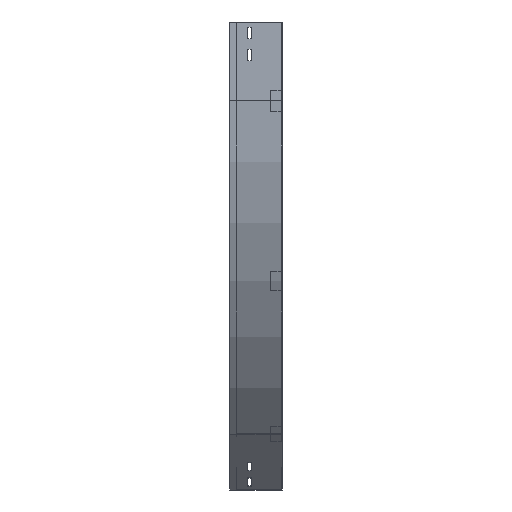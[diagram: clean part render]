
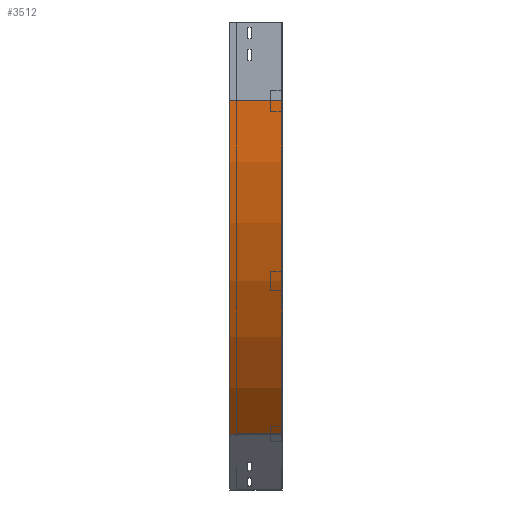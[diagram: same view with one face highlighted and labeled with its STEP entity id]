
A CAD part, left-side view. The second image highlights one B-rep face of the part: STEP entity #3512.
In plain terms, the highlighted cylindrical face has radius 900 mm (diameter 1800 mm), a partial arc.
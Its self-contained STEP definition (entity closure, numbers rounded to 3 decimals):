
#122 = EDGE_CURVE ( 'NONE', #3644, #3209, #1379, .T. ) ;
#161 = ORIENTED_EDGE ( 'NONE', *, *, #1625, .T. ) ;
#336 = EDGE_LOOP ( 'NONE', ( #1716, #3767, #161, #876 ) ) ;
#473 = DIRECTION ( 'NONE',  ( 0., -1., 0. ) ) ;
#520 = CIRCLE ( 'NONE', #579, 900. ) ;
#579 = AXIS2_PLACEMENT_3D ( 'NONE', #595, #1770, #2968 ) ;
#595 = CARTESIAN_POINT ( 'NONE',  ( 900., 100., -150. ) ) ;
#608 = CARTESIAN_POINT ( 'NONE',  ( 900., 0., -150. ) ) ;
#753 = CARTESIAN_POINT ( 'NONE',  ( 263.604, 0., -786.396 ) ) ;
#876 = ORIENTED_EDGE ( 'NONE', *, *, #1317, .T. ) ;
#893 = FACE_OUTER_BOUND ( 'NONE', #336, .T. ) ;
#1021 = CARTESIAN_POINT ( 'NONE',  ( 900., 0., -150. ) ) ;
#1317 = EDGE_CURVE ( 'NONE', #2394, #2404, #2796, .T. ) ;
#1342 = VECTOR ( 'NONE', #3450, 1000. ) ;
#1377 = CARTESIAN_POINT ( 'NONE',  ( 263.604, 100., -786.396 ) ) ;
#1379 = LINE ( 'NONE', #2551, #1342 ) ;
#1492 = DIRECTION ( 'NONE',  ( 0., -1., 0. ) ) ;
#1497 = CIRCLE ( 'NONE', #2004, 900. ) ;
#1552 = AXIS2_PLACEMENT_3D ( 'NONE', #608, #1492, #2690 ) ;
#1625 = EDGE_CURVE ( 'NONE', #3644, #2394, #520, .T. ) ;
#1656 = CARTESIAN_POINT ( 'NONE',  ( 0., 0., -150. ) ) ;
#1687 = DIRECTION ( 'NONE',  ( 0., -1., 0. ) ) ;
#1716 = ORIENTED_EDGE ( 'NONE', *, *, #1985, .F. ) ;
#1770 = DIRECTION ( 'NONE',  ( 0., -1., 0. ) ) ;
#1985 = EDGE_CURVE ( 'NONE', #3209, #2404, #1497, .T. ) ;
#2004 = AXIS2_PLACEMENT_3D ( 'NONE', #1021, #473, #3776 ) ;
#2250 = VECTOR ( 'NONE', #1687, 1000. ) ;
#2394 = VERTEX_POINT ( 'NONE', #1377 ) ;
#2404 = VERTEX_POINT ( 'NONE', #3095 ) ;
#2551 = CARTESIAN_POINT ( 'NONE',  ( 0., 0., -150. ) ) ;
#2690 = DIRECTION ( 'NONE',  ( 0., 0., -1. ) ) ;
#2796 = LINE ( 'NONE', #753, #2250 ) ;
#2968 = DIRECTION ( 'NONE',  ( -1., 0., 0. ) ) ;
#3095 = CARTESIAN_POINT ( 'NONE',  ( 263.604, 0., -786.396 ) ) ;
#3209 = VERTEX_POINT ( 'NONE', #1656 ) ;
#3450 = DIRECTION ( 'NONE',  ( 0., -1., 0. ) ) ;
#3512 = ADVANCED_FACE ( 'NONE', ( #893 ), #3597, .T. ) ;
#3597 = CYLINDRICAL_SURFACE ( 'NONE', #1552, 900. ) ;
#3644 = VERTEX_POINT ( 'NONE', #3741 ) ;
#3741 = CARTESIAN_POINT ( 'NONE',  ( 0., 100., -150. ) ) ;
#3767 = ORIENTED_EDGE ( 'NONE', *, *, #122, .F. ) ;
#3776 = DIRECTION ( 'NONE',  ( -1., 0., 0. ) ) ;
